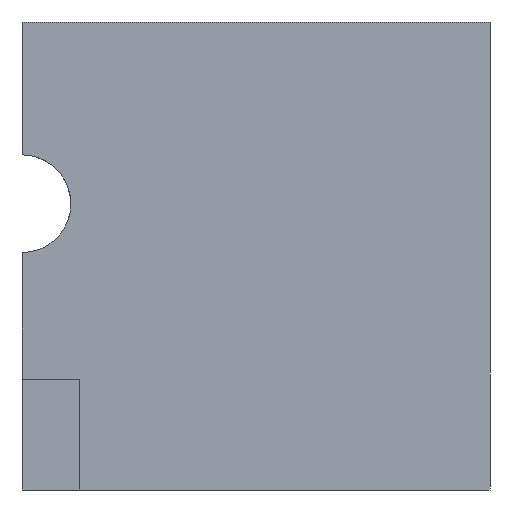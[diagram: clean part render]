
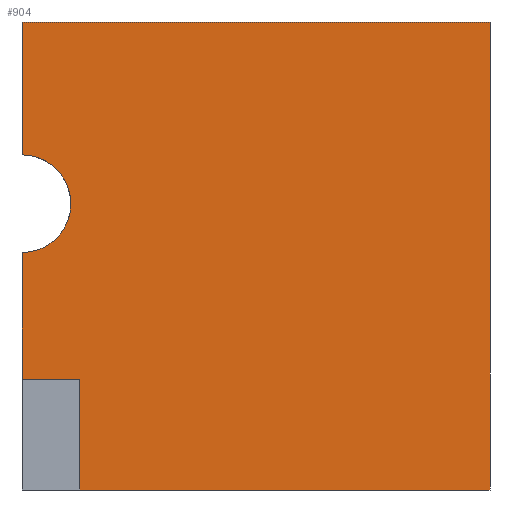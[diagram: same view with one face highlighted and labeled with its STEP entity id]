
A CAD part, front view. The second image highlights one B-rep face of the part: STEP entity #904.
In plain terms, the highlighted planar face has unit normal (0, -1, 0).
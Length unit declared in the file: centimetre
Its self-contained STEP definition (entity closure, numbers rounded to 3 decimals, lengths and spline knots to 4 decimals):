
#14 = AXIS2_PLACEMENT_3D ( 'NONE', #115, #346, #421 ) ;
#40 = VERTEX_POINT ( 'NONE', #373 ) ;
#41 = FACE_OUTER_BOUND ( 'NONE', #367, .T. ) ;
#46 = VERTEX_POINT ( 'NONE', #69 ) ;
#51 = CARTESIAN_POINT ( 'NONE',  ( 123.136, 0., 0. ) ) ;
#55 = CARTESIAN_POINT ( 'NONE',  ( 0., 0., 507.3932 ) ) ;
#69 = CARTESIAN_POINT ( 'NONE',  ( 0., 0., 716.1316 ) ) ;
#71 = CARTESIAN_POINT ( 'NONE',  ( 0., 0., 0. ) ) ;
#115 = CARTESIAN_POINT ( 'NONE',  ( 0., 0., 611.7624 ) ) ;
#124 = LINE ( 'NONE', #724, #738 ) ;
#127 = CARTESIAN_POINT ( 'NONE',  ( 0., 0., 1000. ) ) ;
#131 = CARTESIAN_POINT ( 'NONE',  ( 1000., 0., 1000. ) ) ;
#187 = CARTESIAN_POINT ( 'NONE',  ( 0., 0., 1000. ) ) ;
#243 = EDGE_CURVE ( 'NONE', #909, #325, #695, .T. ) ;
#246 = DIRECTION ( 'NONE',  ( 1., 0., 0. ) ) ;
#248 = EDGE_CURVE ( 'NONE', #497, #504, #768, .T. ) ;
#252 = ORIENTED_EDGE ( 'NONE', *, *, #417, .T. ) ;
#256 = CARTESIAN_POINT ( 'NONE',  ( 0., 0., 236.5199 ) ) ;
#257 = EDGE_CURVE ( 'NONE', #325, #553, #852, .T. ) ;
#266 = CARTESIAN_POINT ( 'NONE',  ( 123.136, 0., 236.5199 ) ) ;
#276 = DIRECTION ( 'NONE',  ( 0., 0., 1. ) ) ;
#290 = DIRECTION ( 'NONE',  ( 0., 0., -1. ) ) ;
#292 = VECTOR ( 'NONE', #337, 100. ) ;
#312 = EDGE_CURVE ( 'NONE', #46, #420, #683, .T. ) ;
#325 = VERTEX_POINT ( 'NONE', #266 ) ;
#337 = DIRECTION ( 'NONE',  ( 1., 0., 0. ) ) ;
#346 = DIRECTION ( 'NONE',  ( 0., 1., 0. ) ) ;
#348 = PLANE ( 'NONE',  #396 ) ;
#367 = EDGE_LOOP ( 'NONE', ( #252, #752, #819, #633, #658, #812, #429, #865 ) ) ;
#373 = CARTESIAN_POINT ( 'NONE',  ( 1000., 0., 0. ) ) ;
#396 = AXIS2_PLACEMENT_3D ( 'NONE', #127, #938, #276 ) ;
#399 = VECTOR ( 'NONE', #290, 100. ) ;
#417 = EDGE_CURVE ( 'NONE', #420, #553, #884, .T. ) ;
#420 = VERTEX_POINT ( 'NONE', #55 ) ;
#421 = DIRECTION ( 'NONE',  ( 0., 0., 1. ) ) ;
#429 = ORIENTED_EDGE ( 'NONE', *, *, #539, .T. ) ;
#430 = DIRECTION ( 'NONE',  ( 0., 0., -1. ) ) ;
#432 = CARTESIAN_POINT ( 'NONE',  ( 123.136, 0., 0. ) ) ;
#497 = VERTEX_POINT ( 'NONE', #586 ) ;
#504 = VERTEX_POINT ( 'NONE', #131 ) ;
#537 = VECTOR ( 'NONE', #943, 100. ) ;
#539 = EDGE_CURVE ( 'NONE', #497, #46, #124, .T. ) ;
#553 = VERTEX_POINT ( 'NONE', #597 ) ;
#569 = EDGE_CURVE ( 'NONE', #504, #40, #877, .T. ) ;
#586 = CARTESIAN_POINT ( 'NONE',  ( 0., 0., 1000. ) ) ;
#597 = CARTESIAN_POINT ( 'NONE',  ( 0., 0., 236.5199 ) ) ;
#633 = ORIENTED_EDGE ( 'NONE', *, *, #706, .T. ) ;
#653 = CARTESIAN_POINT ( 'NONE',  ( 1000., 0., 1000. ) ) ;
#658 = ORIENTED_EDGE ( 'NONE', *, *, #569, .F. ) ;
#683 = CIRCLE ( 'NONE', #14, 104.3692 ) ;
#695 = LINE ( 'NONE', #51, #697 ) ;
#697 = VECTOR ( 'NONE', #707, 100. ) ;
#706 = EDGE_CURVE ( 'NONE', #909, #40, #921, .T. ) ;
#707 = DIRECTION ( 'NONE',  ( 0., 0., 1. ) ) ;
#724 = CARTESIAN_POINT ( 'NONE',  ( 0., 0., 1000. ) ) ;
#738 = VECTOR ( 'NONE', #430, 100. ) ;
#746 = VECTOR ( 'NONE', #889, 100. ) ;
#752 = ORIENTED_EDGE ( 'NONE', *, *, #257, .F. ) ;
#768 = LINE ( 'NONE', #187, #292 ) ;
#812 = ORIENTED_EDGE ( 'NONE', *, *, #248, .F. ) ;
#819 = ORIENTED_EDGE ( 'NONE', *, *, #243, .F. ) ;
#852 = LINE ( 'NONE', #256, #537 ) ;
#865 = ORIENTED_EDGE ( 'NONE', *, *, #312, .T. ) ;
#877 = LINE ( 'NONE', #653, #746 ) ;
#884 = LINE ( 'NONE', #942, #399 ) ;
#889 = DIRECTION ( 'NONE',  ( 0., 0., -1. ) ) ;
#904 = ADVANCED_FACE ( 'NONE', ( #41 ), #348, .F. ) ;
#909 = VERTEX_POINT ( 'NONE', #432 ) ;
#921 = LINE ( 'NONE', #71, #932 ) ;
#932 = VECTOR ( 'NONE', #246, 100. ) ;
#938 = DIRECTION ( 'NONE',  ( 0., 1., 0. ) ) ;
#942 = CARTESIAN_POINT ( 'NONE',  ( 0., 0., 1000. ) ) ;
#943 = DIRECTION ( 'NONE',  ( -1., 0., 0. ) ) ;
